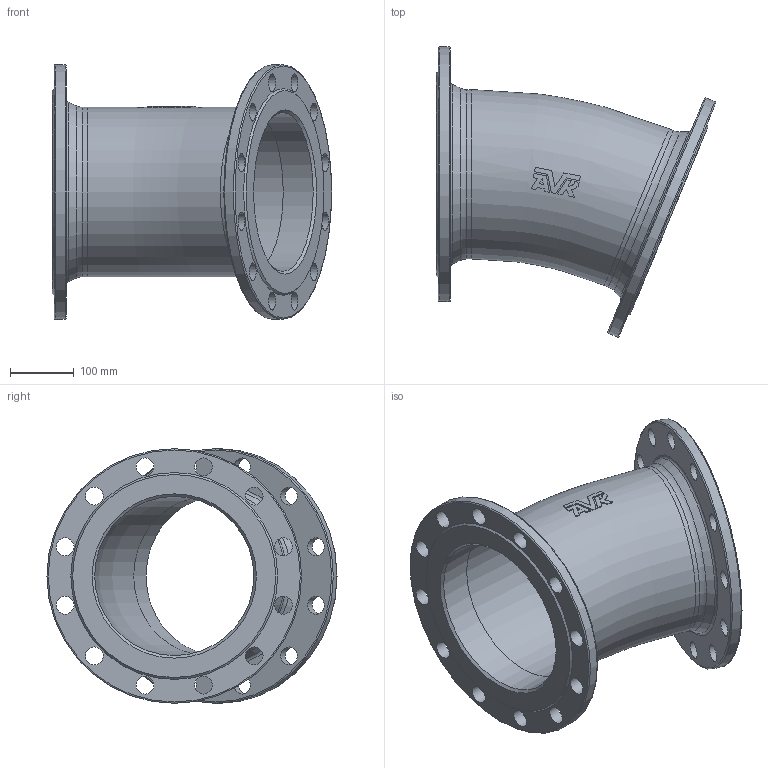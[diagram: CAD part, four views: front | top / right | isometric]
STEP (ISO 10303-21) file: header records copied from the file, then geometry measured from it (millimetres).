
FILE_DESCRIPTION (( 'STEP AP203' ), '1' );
FILE_NAME ('O_712_0210_DN250_1X_REV01.step', '2024-08-15T12:11:42', ( '' ), ( '' ), 'SwSTEP 2.0', 'SolidWorks 2022', '' );
FILE_SCHEMA (( 'CONFIG_CONTROL_DESIGN' ));
Length unit declared in the file: millimetre
Products named in the file (1): O_712_0210_DN250_1X_REV01
Bounding box: 438.69 x 455.71 x 400 mm (x, y, z)
Volume: 5137231.7 mm3; surface area: 907451.8 mm2
Topology: 1 solids, 1 shells, 93 faces, 264 edges, 181 vertices
Faces by surface type: plane 41, cylinder 32, torus 14, cone 6
Full cylindrical faces by diameter (mm): 28 x24, 250 x2, 266 x2, 400 x2
Entity records: 2876 total; most frequent: CARTESIAN_POINT 733, DIRECTION 377, ORIENTED_EDGE 374, EDGE_LOOP 197, EDGE_CURVE 187, AXIS2_PLACEMENT_3D 170, VERTEX_POINT 150, FACE_OUTER_BOUND 133
